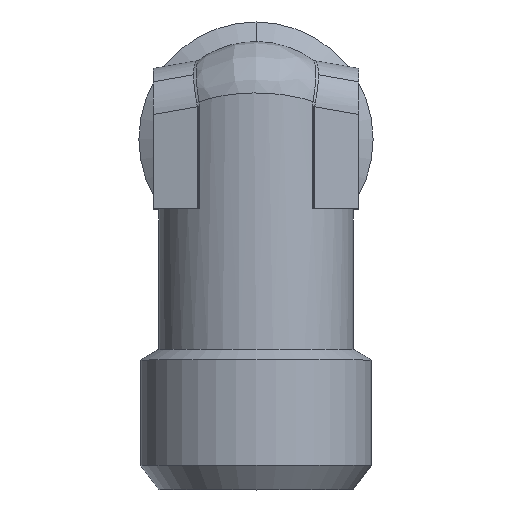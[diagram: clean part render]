
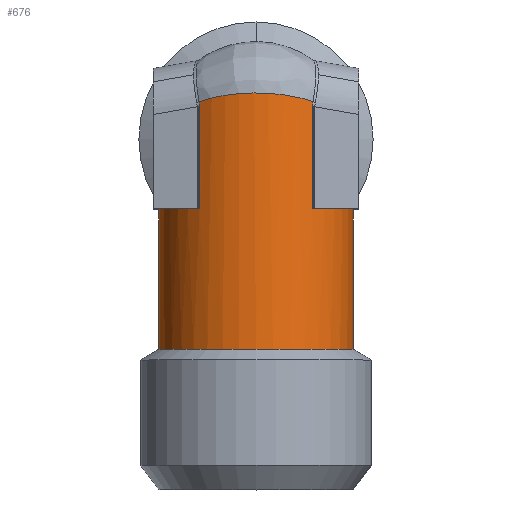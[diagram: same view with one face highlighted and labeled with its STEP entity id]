
A CAD part, top view. The second image highlights one B-rep face of the part: STEP entity #676.
In plain terms, the highlighted cylindrical face has radius 4.15 mm (diameter 8.3 mm), a partial arc.
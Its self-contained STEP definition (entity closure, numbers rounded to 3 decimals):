
#565=CARTESIAN_POINT('',(0.0,0.0,0.0));
#566=DIRECTION('',(0.0,1.0,0.0));
#567=DIRECTION('',(-1.0,0.0,0.0));
#568=AXIS2_PLACEMENT_3D('',#565,#566,#567);
#569=CYLINDRICAL_SURFACE('',#568,4.15);
#570=CARTESIAN_POINT('',(-4.15,-9.0,0.));
#571=VERTEX_POINT('',#570);
#572=CARTESIAN_POINT('',(-4.15,-3.0,0.));
#573=VERTEX_POINT('',#572);
#574=CARTESIAN_POINT('',(-4.15,-9.0,0.));
#575=DIRECTION('',(0.0,1.0,0.0));
#576=VECTOR('',#575,6.0);
#577=LINE('',#574,#576);
#578=EDGE_CURVE('',#571,#573,#577,.T.);
#579=ORIENTED_EDGE('',*,*,#578,.F.);
#580=CARTESIAN_POINT('',(4.15,-9.0,0.));
#581=VERTEX_POINT('',#580);
#582=CARTESIAN_POINT('',(0.0,-9.0,0.));
#583=DIRECTION('',(0.0,1.0,0.0));
#584=DIRECTION('',(1.0,0.0,0.0));
#585=AXIS2_PLACEMENT_3D('',#582,#583,#584);
#586=CIRCLE('',#585,4.15);
#587=EDGE_CURVE('',#571,#581,#586,.T.);
#588=ORIENTED_EDGE('',*,*,#587,.T.);
#589=CARTESIAN_POINT('',(4.15,-3.0,0.));
#590=VERTEX_POINT('',#589);
#591=CARTESIAN_POINT('',(4.15,-3.0,0.));
#592=DIRECTION('',(0.0,-1.0,0.0));
#593=VECTOR('',#592,6.0);
#594=LINE('',#591,#593);
#595=EDGE_CURVE('',#590,#581,#594,.T.);
#596=ORIENTED_EDGE('',*,*,#595,.F.);
#597=CARTESIAN_POINT('',(2.415,-3.0,3.375));
#598=VERTEX_POINT('',#597);
#599=CARTESIAN_POINT('',(0.0,-3.0,0.0));
#600=DIRECTION('',(0.0,-1.0,0.0));
#601=DIRECTION('',(-1.0,0.0,0.0));
#602=AXIS2_PLACEMENT_3D('',#599,#600,#601);
#603=CIRCLE('',#602,4.15);
#604=EDGE_CURVE('',#590,#598,#603,.T.);
#605=ORIENTED_EDGE('',*,*,#604,.T.);
#606=CARTESIAN_POINT('',(2.415,1.362,3.375));
#607=VERTEX_POINT('',#606);
#608=CARTESIAN_POINT('',(2.415,1.362,3.375));
#609=DIRECTION('',(0.0,-1.0,0.0));
#610=VECTOR('',#609,4.362);
#611=LINE('',#608,#610);
#612=EDGE_CURVE('',#607,#598,#611,.T.);
#613=ORIENTED_EDGE('',*,*,#612,.F.);
#614=CARTESIAN_POINT('',(2.434,1.58,3.362));
#615=VERTEX_POINT('',#614);
#616=CARTESIAN_POINT('',(2.434,1.58,3.362));
#617=CARTESIAN_POINT('',(2.432,1.571,3.363));
#618=CARTESIAN_POINT('',(2.431,1.562,3.364));
#619=CARTESIAN_POINT('',(2.427,1.538,3.366));
#620=CARTESIAN_POINT('',(2.425,1.524,3.368));
#621=CARTESIAN_POINT('',(2.421,1.487,3.371));
#622=CARTESIAN_POINT('',(2.419,1.463,3.372));
#623=CARTESIAN_POINT('',(2.416,1.414,3.374));
#624=CARTESIAN_POINT('',(2.415,1.388,3.375));
#625=CARTESIAN_POINT('',(2.415,1.362,3.375));
#626=B_SPLINE_CURVE_WITH_KNOTS('',3,(#616,#617,#618,#619,#620,#621,#622,#623,#624,#625),.UNSPECIFIED.,.F.,.U.,(4,2,2,2,4),(0.,0.027,0.071,0.141,0.218),.UNSPECIFIED.);
#627=EDGE_CURVE('',#615,#607,#626,.T.);
#628=ORIENTED_EDGE('',*,*,#627,.F.);
#629=CARTESIAN_POINT('',(-2.434,1.58,3.362));
#630=VERTEX_POINT('',#629);
#631=CARTESIAN_POINT('',(0.0,0.0,0.0));
#632=DIRECTION('',(0.0,0.905,-0.425));
#633=DIRECTION('',(0.0,0.425,0.905));
#634=AXIS2_PLACEMENT_3D('',#631,#632,#633);
#635=ELLIPSE('',#634,4.585,4.15);
#636=EDGE_CURVE('',#630,#615,#635,.T.);
#637=ORIENTED_EDGE('',*,*,#636,.F.);
#638=CARTESIAN_POINT('',(-2.415,1.362,3.375));
#639=VERTEX_POINT('',#638);
#640=CARTESIAN_POINT('',(-2.434,1.58,3.362));
#641=CARTESIAN_POINT('',(-2.432,1.567,3.363));
#642=CARTESIAN_POINT('',(-2.43,1.555,3.364));
#643=CARTESIAN_POINT('',(-2.426,1.528,3.367));
#644=CARTESIAN_POINT('',(-2.424,1.513,3.369));
#645=CARTESIAN_POINT('',(-2.421,1.49,3.37));
#646=CARTESIAN_POINT('',(-2.421,1.481,3.371));
#647=CARTESIAN_POINT('',(-2.419,1.467,3.372));
#648=CARTESIAN_POINT('',(-2.419,1.463,3.372));
#649=CARTESIAN_POINT('',(-2.418,1.451,3.373));
#650=CARTESIAN_POINT('',(-2.418,1.443,3.373));
#651=CARTESIAN_POINT('',(-2.417,1.425,3.374));
#652=CARTESIAN_POINT('',(-2.416,1.413,3.374));
#653=CARTESIAN_POINT('',(-2.415,1.388,3.375));
#654=CARTESIAN_POINT('',(-2.415,1.375,3.375));
#655=CARTESIAN_POINT('',(-2.415,1.362,3.375));
#656=B_SPLINE_CURVE_WITH_KNOTS('',3,(#640,#641,#642,#643,#644,#645,#646,#647,#648,#649,#650,#651,#652,#653,#654,#655),.UNSPECIFIED.,.F.,.U.,(4,2,2,2,2,2,2,4),(0.0,0.038,0.082,0.109,0.123,0.145,0.18,0.219),.UNSPECIFIED.);
#657=EDGE_CURVE('',#639,#630,#656,.F.);
#658=ORIENTED_EDGE('',*,*,#657,.F.);
#659=CARTESIAN_POINT('',(-2.415,-3.0,3.375));
#660=VERTEX_POINT('',#659);
#661=CARTESIAN_POINT('',(-2.415,-3.0,3.375));
#662=DIRECTION('',(0.0,1.0,0.0));
#663=VECTOR('',#662,4.362);
#664=LINE('',#661,#663);
#665=EDGE_CURVE('',#660,#639,#664,.T.);
#666=ORIENTED_EDGE('',*,*,#665,.F.);
#667=CARTESIAN_POINT('',(0.0,-3.0,0.0));
#668=DIRECTION('',(0.0,-1.0,0.0));
#669=DIRECTION('',(-1.0,0.0,0.0));
#670=AXIS2_PLACEMENT_3D('',#667,#668,#669);
#671=CIRCLE('',#670,4.15);
#672=EDGE_CURVE('',#660,#573,#671,.T.);
#673=ORIENTED_EDGE('',*,*,#672,.T.);
#674=EDGE_LOOP('',(#579,#588,#596,#605,#613,#628,#637,#658,#666,#673));
#675=FACE_OUTER_BOUND('',#674,.T.);
#676=ADVANCED_FACE('',(#675),#569,.T.);
